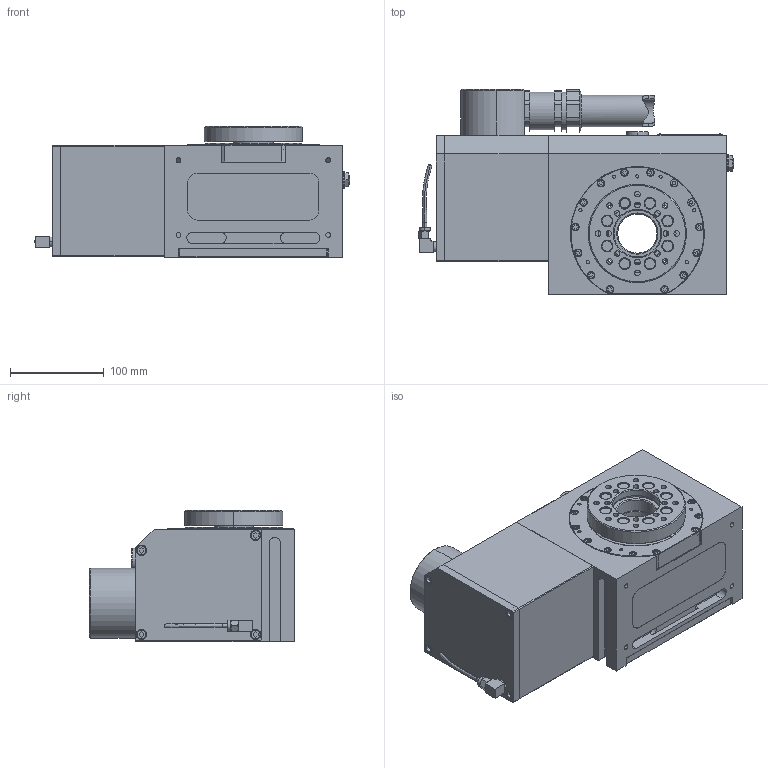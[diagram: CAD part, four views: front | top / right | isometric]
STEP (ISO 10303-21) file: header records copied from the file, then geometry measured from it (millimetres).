
FILE_DESCRIPTION (( 'STEP AP203' ), '1' );
FILE_NAME ('2505573 MDHWI100L-85.STEP', '2020-12-05T05:49:40', ( '' ), ( '' ), 'SwSTEP 2.0', 'SolidWorks 2019', '' );
FILE_SCHEMA (( 'CONFIG_CONTROL_DESIGN' ));
Products named in the file (1): 2505573 MDHWI100L-85
Bounding box: 336.73 x 219 x 140 mm (x, y, z)
Surface area: 343999.3 mm2 (no closed solid volume)
Topology: 0 solids, 98 shells, 910 faces, 4470 edges, 3634 vertices
Faces by surface type: plane 482, cylinder 273, cone 94, bspline 27, torus 24, sphere 10
Entity records: 52291 total; most frequent: CARTESIAN_POINT 18811, DIRECTION 6155, ORIENTED_EDGE 6121, EDGE_CURVE 4462, VERTEX_POINT 3634, LINE 2495, VECTOR 2495, AXIS2_PLACEMENT_3D 1830
